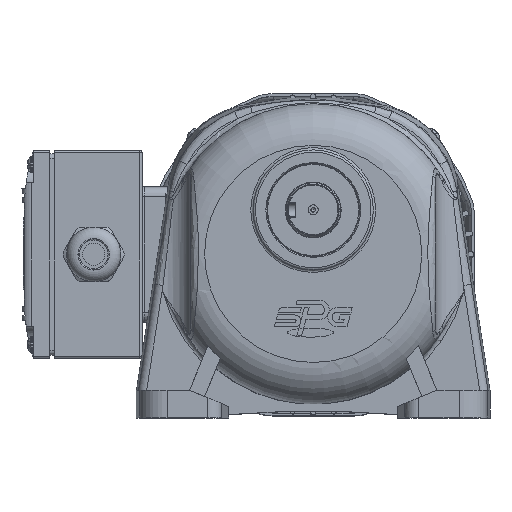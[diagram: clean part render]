
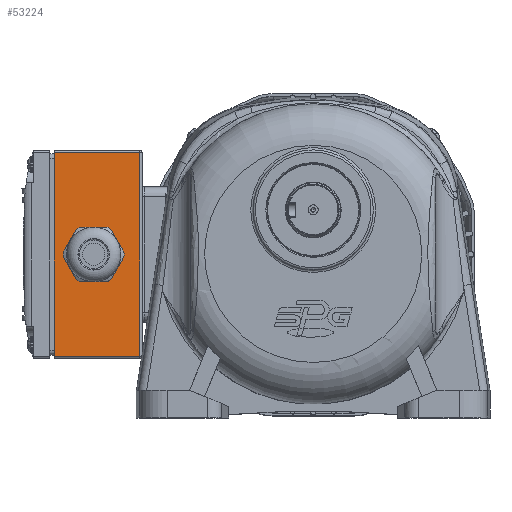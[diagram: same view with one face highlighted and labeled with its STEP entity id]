
A CAD part, top view. The second image highlights one B-rep face of the part: STEP entity #53224.
In plain terms, the highlighted planar face has unit normal (0, 0, 1).
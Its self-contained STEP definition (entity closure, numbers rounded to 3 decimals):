
#2920=FACE_BOUND('',#10817,.T.);
#3838=PLANE('',#58382);
#7561=FACE_OUTER_BOUND('',#10816,.T.);
#10816=EDGE_LOOP('',(#44932,#44933,#44934,#44935));
#10817=EDGE_LOOP('',(#44936,#44937,#44938,#44939,#44940,#44941,#44942,#44943,
#44944,#44945,#44946,#44947));
#11584=CIRCLE('',#53971,13.);
#11586=CIRCLE('',#53974,13.);
#11588=CIRCLE('',#53977,13.);
#11590=CIRCLE('',#53980,13.);
#11592=CIRCLE('',#53983,13.);
#11594=CIRCLE('',#53986,13.);
#14642=LINE('',#73880,#17418);
#14671=LINE('',#74000,#17447);
#14672=LINE('',#74002,#17448);
#14673=LINE('',#74004,#17449);
#14674=LINE('',#74006,#17450);
#14675=LINE('',#74008,#17451);
#16534=LINE('',#118794,#19310);
#16684=LINE('',#119209,#19460);
#16685=LINE('',#119212,#19461);
#16686=LINE('',#119213,#19462);
#17418=VECTOR('',#59705,10.);
#17447=VECTOR('',#59816,10.);
#17448=VECTOR('',#59819,10.);
#17449=VECTOR('',#59822,10.);
#17450=VECTOR('',#59825,10.);
#17451=VECTOR('',#59828,10.);
#19310=VECTOR('',#70121,10.);
#19460=VECTOR('',#70535,10.);
#19461=VECTOR('',#70538,10.);
#19462=VECTOR('',#70539,10.);
#20195=VERTEX_POINT('',#73826);
#20197=VERTEX_POINT('',#73830);
#20199=VERTEX_POINT('',#73835);
#20201=VERTEX_POINT('',#73839);
#20203=VERTEX_POINT('',#73844);
#20205=VERTEX_POINT('',#73848);
#20207=VERTEX_POINT('',#73853);
#20209=VERTEX_POINT('',#73857);
#20211=VERTEX_POINT('',#73862);
#20213=VERTEX_POINT('',#73866);
#20215=VERTEX_POINT('',#73871);
#20217=VERTEX_POINT('',#73875);
#24010=VERTEX_POINT('',#118780);
#24016=VERTEX_POINT('',#118792);
#24149=VERTEX_POINT('',#119207);
#24150=VERTEX_POINT('',#119211);
#24967=EDGE_CURVE('',#20195,#20197,#11584,.T.);
#24971=EDGE_CURVE('',#20199,#20201,#11586,.T.);
#24975=EDGE_CURVE('',#20203,#20205,#11588,.T.);
#24979=EDGE_CURVE('',#20207,#20209,#11590,.T.);
#24983=EDGE_CURVE('',#20211,#20213,#11592,.T.);
#24987=EDGE_CURVE('',#20215,#20217,#11594,.T.);
#24989=EDGE_CURVE('',#20217,#20195,#14642,.T.);
#25045=EDGE_CURVE('',#20197,#20199,#14671,.T.);
#25046=EDGE_CURVE('',#20213,#20215,#14672,.T.);
#25047=EDGE_CURVE('',#20209,#20211,#14673,.T.);
#25048=EDGE_CURVE('',#20205,#20207,#14674,.T.);
#25049=EDGE_CURVE('',#20201,#20203,#14675,.T.);
#31102=EDGE_CURVE('',#24010,#24016,#16534,.T.);
#31310=EDGE_CURVE('',#24010,#24149,#16684,.T.);
#31311=EDGE_CURVE('',#24149,#24150,#16685,.T.);
#31312=EDGE_CURVE('',#24150,#24016,#16686,.T.);
#44932=ORIENTED_EDGE('',*,*,#31311,.F.);
#44933=ORIENTED_EDGE('',*,*,#31310,.F.);
#44934=ORIENTED_EDGE('',*,*,#31102,.T.);
#44935=ORIENTED_EDGE('',*,*,#31312,.F.);
#44936=ORIENTED_EDGE('',*,*,#24987,.T.);
#44937=ORIENTED_EDGE('',*,*,#24989,.T.);
#44938=ORIENTED_EDGE('',*,*,#24967,.T.);
#44939=ORIENTED_EDGE('',*,*,#25045,.T.);
#44940=ORIENTED_EDGE('',*,*,#24971,.T.);
#44941=ORIENTED_EDGE('',*,*,#25049,.T.);
#44942=ORIENTED_EDGE('',*,*,#24975,.T.);
#44943=ORIENTED_EDGE('',*,*,#25048,.T.);
#44944=ORIENTED_EDGE('',*,*,#24979,.T.);
#44945=ORIENTED_EDGE('',*,*,#25047,.T.);
#44946=ORIENTED_EDGE('',*,*,#24983,.T.);
#44947=ORIENTED_EDGE('',*,*,#25046,.T.);
#53224=ADVANCED_FACE('',(#7561,#2920),#3838,.T.);
#53971=AXIS2_PLACEMENT_3D('',#73832,#59660,#59661);
#53974=AXIS2_PLACEMENT_3D('',#73841,#59668,#59669);
#53977=AXIS2_PLACEMENT_3D('',#73850,#59676,#59677);
#53980=AXIS2_PLACEMENT_3D('',#73859,#59684,#59685);
#53983=AXIS2_PLACEMENT_3D('',#73868,#59692,#59693);
#53986=AXIS2_PLACEMENT_3D('',#73877,#59700,#59701);
#58382=AXIS2_PLACEMENT_3D('',#119210,#70536,#70537);
#59660=DIRECTION('center_axis',(0.,0.,
-1.));
#59661=DIRECTION('ref_axis',(-0.5,0.866,0.));
#59668=DIRECTION('center_axis',(0.,0.,
-1.));
#59669=DIRECTION('ref_axis',(-0.5,0.866,0.));
#59676=DIRECTION('center_axis',(0.,0.,
-1.));
#59677=DIRECTION('ref_axis',(-0.5,0.866,0.));
#59684=DIRECTION('center_axis',(0.,0.,
-1.));
#59685=DIRECTION('ref_axis',(-0.5,0.866,0.));
#59692=DIRECTION('center_axis',(0.,0.,
-1.));
#59693=DIRECTION('ref_axis',(-0.5,0.866,0.));
#59700=DIRECTION('center_axis',(0.,0.,
-1.));
#59701=DIRECTION('ref_axis',(-0.5,0.866,0.));
#59705=DIRECTION('',(0.5,-0.866,0.));
#59816=DIRECTION('',(-0.5,-0.866,0.));
#59819=DIRECTION('',(1.,0.,0.));
#59822=DIRECTION('',(0.5,0.866,0.));
#59825=DIRECTION('',(-0.5,0.866,0.));
#59828=DIRECTION('',(-1.,0.,0.));
#70121=DIRECTION('',(0.,-1.,0.));
#70535=DIRECTION('',(1.,0.,0.));
#70536=DIRECTION('center_axis',(0.,0.,
1.));
#70537=DIRECTION('ref_axis',(1.,0.,0.));
#70538=DIRECTION('',(0.,-1.,0.));
#70539=DIRECTION('',(-1.,0.,0.));
#73826=CARTESIAN_POINT('',(-82.902,7.354,-117.75));
#73830=CARTESIAN_POINT('',(-82.902,4.764,-117.75));
#73832=CARTESIAN_POINT('Origin',(-95.837,6.059,-117.75));
#73835=CARTESIAN_POINT('',(-88.248,-4.496,-117.75));
#73839=CARTESIAN_POINT('',(-90.491,-5.791,-117.75));
#73841=CARTESIAN_POINT('Origin',(-95.837,6.059,-117.75));
#73844=CARTESIAN_POINT('',(-101.183,-5.791,-117.75));
#73848=CARTESIAN_POINT('',(-103.427,-4.496,-117.75));
#73850=CARTESIAN_POINT('Origin',(-95.837,6.059,-117.75));
#73853=CARTESIAN_POINT('',(-108.772,4.764,-117.75));
#73857=CARTESIAN_POINT('',(-108.772,7.354,-117.75));
#73859=CARTESIAN_POINT('Origin',(-95.837,6.059,-117.75));
#73862=CARTESIAN_POINT('',(-103.427,16.614,-117.75));
#73866=CARTESIAN_POINT('',(-101.183,17.909,-117.75));
#73868=CARTESIAN_POINT('Origin',(-95.837,6.059,-117.75));
#73871=CARTESIAN_POINT('',(-90.491,17.909,-117.75));
#73875=CARTESIAN_POINT('',(-88.248,16.614,-117.75));
#73877=CARTESIAN_POINT('Origin',(-95.837,6.059,-117.75));
#73880=CARTESIAN_POINT('',(-90.982,21.35,-117.75));
#74000=CARTESIAN_POINT('',(-74.917,18.593,-117.75));
#74002=CARTESIAN_POINT('',(-81.916,17.909,-117.75));
#74004=CARTESIAN_POINT('',(-92.021,36.368,-117.75));
#74006=CARTESIAN_POINT('',(-114.928,15.425,-117.75));
#74008=CARTESIAN_POINT('',(-88.758,-5.791,-117.75));
#118780=CARTESIAN_POINT('',(-112.837,50.059,-117.75));
#118792=CARTESIAN_POINT('',(-112.837,-37.941,-117.75));
#118794=CARTESIAN_POINT('',(-112.837,-38.941,-117.75));
#119207=CARTESIAN_POINT('',(-75.837,50.059,-117.75));
#119209=CARTESIAN_POINT('',(-74.837,50.059,-117.75));
#119210=CARTESIAN_POINT('Origin',(-74.837,51.059,-117.75));
#119211=CARTESIAN_POINT('',(-75.837,-37.941,-117.75));
#119212=CARTESIAN_POINT('',(-75.837,28.559,-117.75));
#119213=CARTESIAN_POINT('',(-74.837,-37.941,-117.75));
